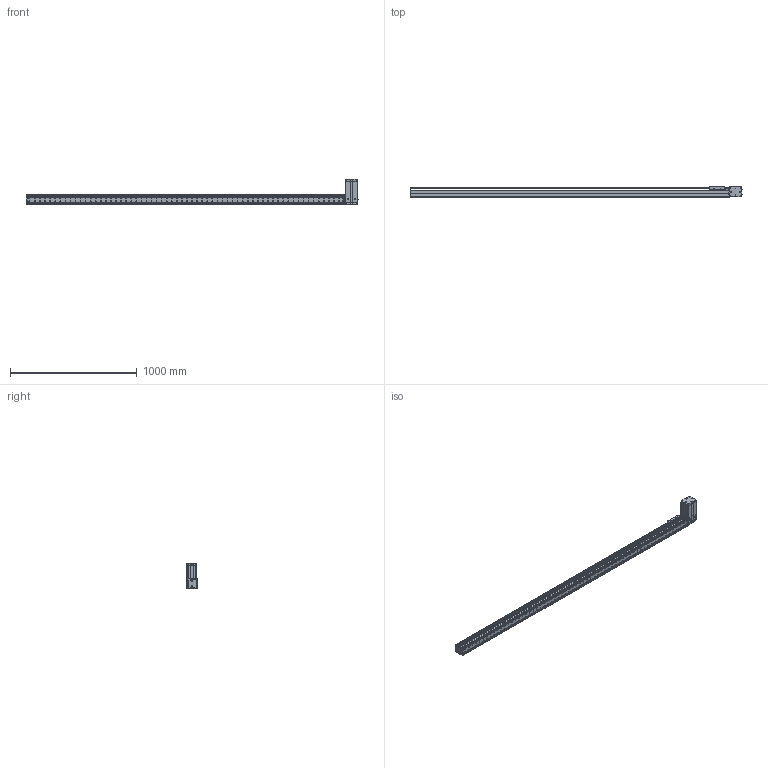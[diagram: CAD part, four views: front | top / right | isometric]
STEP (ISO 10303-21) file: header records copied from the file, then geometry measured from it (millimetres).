
FILE_DESCRIPTION((''),'2;1');
FILE_NAME('BE10_-BR-M_N-P0_IGS_PRT','2017-06-18T',(' '),(''),'PRO/ENGINEER BY PARAMETRIC TECHNOLOGY CORPORATION, 2015030','PRO/ENGINEER BY PARAMETRIC TECHNOLOGY CORPORATION, 2015030','');
FILE_SCHEMA(('CONFIG_CONTROL_DESIGN'));
Products named in the file (1): BE10_-BR-M_N-P0_IGS_PRT
Bounding box: 2620.8 x 85 x 200.22 mm (x, y, z)
Volume: 3358498.6 mm3; surface area: 2360459.9 mm2
Topology: 5 solids, 203 shells, 2482 faces, 6817 edges, 4554 vertices
Faces by surface type: cylinder 1228, plane 1091, cone 107, sphere 28, torus 25, bspline 3
Entity records: 81433 total; most frequent: CARTESIAN_POINT 16698, DIRECTION 13830, ORIENTED_EDGE 12722, EDGE_CURVE 6747, AXIS2_PLACEMENT_3D 5129, VERTEX_POINT 4550, VECTOR 3572, LINE 3572
